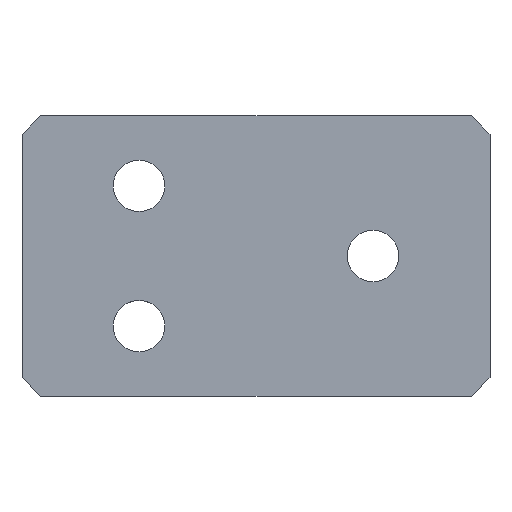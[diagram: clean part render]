
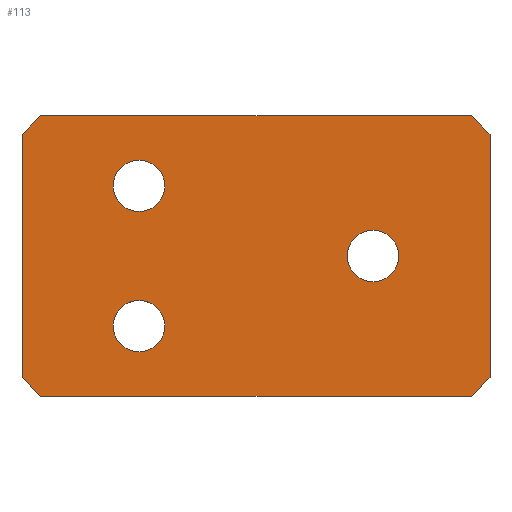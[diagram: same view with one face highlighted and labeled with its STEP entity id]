
A CAD part, top view. The second image highlights one B-rep face of the part: STEP entity #113.
In plain terms, the highlighted planar face has unit normal (0, 0, 1).
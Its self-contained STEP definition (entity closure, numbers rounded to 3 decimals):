
#3 = DIRECTION ( 'NONE',  ( 1., 0., 0. ) ) ;
#5 = VERTEX_POINT ( 'NONE', #160 ) ;
#15 = EDGE_CURVE ( 'NONE', #110, #162, #131, .T. ) ;
#20 = DIRECTION ( 'NONE',  ( 1., 0., 0. ) ) ;
#22 = EDGE_CURVE ( 'NONE', #293, #339, #98, .T. ) ;
#28 = EDGE_CURVE ( 'NONE', #5, #572, #570, .T. ) ;
#38 = CARTESIAN_POINT ( 'NONE',  ( -23., 15., 2. ) ) ;
#44 = ORIENTED_EDGE ( 'NONE', *, *, #392, .F. ) ;
#55 = AXIS2_PLACEMENT_3D ( 'NONE', #502, #227, #3 ) ;
#58 = ORIENTED_EDGE ( 'NONE', *, *, #22, .T. ) ;
#65 = CARTESIAN_POINT ( 'NONE',  ( 19., -19., 2. ) ) ;
#66 = CARTESIAN_POINT ( 'NONE',  ( 15.25, 0., 2. ) ) ;
#67 = CARTESIAN_POINT ( 'NONE',  ( 25., 15., 2. ) ) ;
#68 = CIRCLE ( 'NONE', #55, 2.75 ) ;
#69 = FACE_BOUND ( 'NONE', #564, .T. ) ;
#76 = DIRECTION ( 'NONE',  ( 0., 0., 1. ) ) ;
#80 = DIRECTION ( 'NONE',  ( 0., 0., 1. ) ) ;
#81 = VECTOR ( 'NONE', #591, 1000. ) ;
#82 = CARTESIAN_POINT ( 'NONE',  ( -19., -19., 2. ) ) ;
#85 = AXIS2_PLACEMENT_3D ( 'NONE', #97, #328, #551 ) ;
#86 = CARTESIAN_POINT ( 'NONE',  ( 19., 19., 2. ) ) ;
#91 = VERTEX_POINT ( 'NONE', #66 ) ;
#92 = DIRECTION ( 'NONE',  ( 0., -1., 0. ) ) ;
#93 = CARTESIAN_POINT ( 'NONE',  ( -15.25, 7.5, 2. ) ) ;
#95 = LINE ( 'NONE', #82, #81 ) ;
#97 = CARTESIAN_POINT ( 'NONE',  ( -12.5, 7.5, 2. ) ) ;
#98 = LINE ( 'NONE', #65, #261 ) ;
#110 = VERTEX_POINT ( 'NONE', #573 ) ;
#113 = ADVANCED_FACE ( 'NONE', ( #357, #69, #486, #368 ), #528, .T. ) ;
#122 = CIRCLE ( 'NONE', #144, 2.75 ) ;
#129 = CARTESIAN_POINT ( 'NONE',  ( 25., -13., 2. ) ) ;
#131 = LINE ( 'NONE', #67, #459 ) ;
#138 = LINE ( 'NONE', #225, #344 ) ;
#139 = ORIENTED_EDGE ( 'NONE', *, *, #543, .T. ) ;
#144 = AXIS2_PLACEMENT_3D ( 'NONE', #471, #370, #281 ) ;
#145 = LINE ( 'NONE', #330, #356 ) ;
#146 = VERTEX_POINT ( 'NONE', #491 ) ;
#155 = ORIENTED_EDGE ( 'NONE', *, *, #15, .T. ) ;
#158 = CARTESIAN_POINT ( 'NONE',  ( -12.5, 7.5, 2. ) ) ;
#160 = CARTESIAN_POINT ( 'NONE',  ( -9.75, 7.5, 2. ) ) ;
#162 = VERTEX_POINT ( 'NONE', #38 ) ;
#180 = VECTOR ( 'NONE', #317, 1000. ) ;
#195 = EDGE_CURVE ( 'NONE', #146, #474, #524, .T. ) ;
#198 = VECTOR ( 'NONE', #286, 1000. ) ;
#203 = VERTEX_POINT ( 'NONE', #539 ) ;
#208 = DIRECTION ( 'NONE',  ( 0., 0., 1. ) ) ;
#213 = VECTOR ( 'NONE', #498, 1000. ) ;
#214 = ORIENTED_EDGE ( 'NONE', *, *, #309, .T. ) ;
#225 = CARTESIAN_POINT ( 'NONE',  ( 25., -15., 2. ) ) ;
#227 = DIRECTION ( 'NONE',  ( 0., 0., 1. ) ) ;
#233 = VERTEX_POINT ( 'NONE', #269 ) ;
#234 = CARTESIAN_POINT ( 'NONE',  ( -25., -13., 2. ) ) ;
#259 = DIRECTION ( 'NONE',  ( 1., 0., 0. ) ) ;
#261 = VECTOR ( 'NONE', #391, 1000. ) ;
#263 = ORIENTED_EDGE ( 'NONE', *, *, #440, .F. ) ;
#268 = ORIENTED_EDGE ( 'NONE', *, *, #270, .T. ) ;
#269 = CARTESIAN_POINT ( 'NONE',  ( -25., 13., 2. ) ) ;
#270 = EDGE_CURVE ( 'NONE', #339, #294, #138, .T. ) ;
#271 = CARTESIAN_POINT ( 'NONE',  ( 12.5, 0., 2. ) ) ;
#274 = CARTESIAN_POINT ( 'NONE',  ( 23., -15., 2. ) ) ;
#281 = DIRECTION ( 'NONE',  ( 1., 0., 0. ) ) ;
#284 = CARTESIAN_POINT ( 'NONE',  ( -23., -15., 2. ) ) ;
#286 = DIRECTION ( 'NONE',  ( -0.707, -0.707, 0. ) ) ;
#293 = VERTEX_POINT ( 'NONE', #274 ) ;
#294 = VERTEX_POINT ( 'NONE', #589 ) ;
#301 = DIRECTION ( 'NONE',  ( 0., 0., 1. ) ) ;
#302 = CARTESIAN_POINT ( 'NONE',  ( 0., 0., 2. ) ) ;
#309 = EDGE_CURVE ( 'NONE', #468, #293, #515, .T. ) ;
#317 = DIRECTION ( 'NONE',  ( -0.707, 0.707, 0. ) ) ;
#324 = EDGE_CURVE ( 'NONE', #537, #468, #95, .T. ) ;
#328 = DIRECTION ( 'NONE',  ( 0., 0., 1. ) ) ;
#329 = LINE ( 'NONE', #365, #198 ) ;
#330 = CARTESIAN_POINT ( 'NONE',  ( -25., -15., 2. ) ) ;
#331 = ORIENTED_EDGE ( 'NONE', *, *, #363, .F. ) ;
#339 = VERTEX_POINT ( 'NONE', #129 ) ;
#344 = VECTOR ( 'NONE', #542, 1000. ) ;
#356 = VECTOR ( 'NONE', #92, 1000. ) ;
#357 = FACE_BOUND ( 'NONE', #467, .T. ) ;
#363 = EDGE_CURVE ( 'NONE', #474, #146, #68, .T. ) ;
#365 = CARTESIAN_POINT ( 'NONE',  ( -19., 19., 2. ) ) ;
#368 = FACE_OUTER_BOUND ( 'NONE', #451, .T. ) ;
#370 = DIRECTION ( 'NONE',  ( 0., 0., 1. ) ) ;
#371 = EDGE_CURVE ( 'NONE', #294, #110, #438, .T. ) ;
#389 = ORIENTED_EDGE ( 'NONE', *, *, #324, .T. ) ;
#391 = DIRECTION ( 'NONE',  ( 0.707, 0.707, 0. ) ) ;
#392 = EDGE_CURVE ( 'NONE', #91, #203, #483, .T. ) ;
#394 = DIRECTION ( 'NONE',  ( -1., 0., 0. ) ) ;
#395 = AXIS2_PLACEMENT_3D ( 'NONE', #158, #301, #20 ) ;
#400 = CARTESIAN_POINT ( 'NONE',  ( -12.5, -7.5, 2. ) ) ;
#422 = ORIENTED_EDGE ( 'NONE', *, *, #371, .T. ) ;
#435 = AXIS2_PLACEMENT_3D ( 'NONE', #302, #208, #259 ) ;
#438 = LINE ( 'NONE', #86, #180 ) ;
#440 = EDGE_CURVE ( 'NONE', #572, #5, #507, .T. ) ;
#451 = EDGE_LOOP ( 'NONE', ( #139, #389, #214, #58, #268, #422, #155, #531 ) ) ;
#455 = CARTESIAN_POINT ( 'NONE',  ( 25., -15., 2. ) ) ;
#459 = VECTOR ( 'NONE', #394, 1000. ) ;
#462 = AXIS2_PLACEMENT_3D ( 'NONE', #271, #80, #544 ) ;
#467 = EDGE_LOOP ( 'NONE', ( #517, #331 ) ) ;
#468 = VERTEX_POINT ( 'NONE', #284 ) ;
#470 = EDGE_CURVE ( 'NONE', #162, #233, #329, .T. ) ;
#471 = CARTESIAN_POINT ( 'NONE',  ( 12.5, 0., 2. ) ) ;
#474 = VERTEX_POINT ( 'NONE', #555 ) ;
#475 = ORIENTED_EDGE ( 'NONE', *, *, #501, .F. ) ;
#483 = CIRCLE ( 'NONE', #462, 2.75 ) ;
#486 = FACE_BOUND ( 'NONE', #530, .T. ) ;
#491 = CARTESIAN_POINT ( 'NONE',  ( -9.75, -7.5, 2. ) ) ;
#498 = DIRECTION ( 'NONE',  ( 1., 0., 0. ) ) ;
#499 = AXIS2_PLACEMENT_3D ( 'NONE', #400, #76, #532 ) ;
#501 = EDGE_CURVE ( 'NONE', #203, #91, #122, .T. ) ;
#502 = CARTESIAN_POINT ( 'NONE',  ( -12.5, -7.5, 2. ) ) ;
#507 = CIRCLE ( 'NONE', #85, 2.75 ) ;
#515 = LINE ( 'NONE', #455, #213 ) ;
#517 = ORIENTED_EDGE ( 'NONE', *, *, #195, .F. ) ;
#524 = CIRCLE ( 'NONE', #499, 2.75 ) ;
#528 = PLANE ( 'NONE',  #435 ) ;
#530 = EDGE_LOOP ( 'NONE', ( #546, #263 ) ) ;
#531 = ORIENTED_EDGE ( 'NONE', *, *, #470, .T. ) ;
#532 = DIRECTION ( 'NONE',  ( 1., 0., 0. ) ) ;
#537 = VERTEX_POINT ( 'NONE', #234 ) ;
#539 = CARTESIAN_POINT ( 'NONE',  ( 9.75, 0., 2. ) ) ;
#542 = DIRECTION ( 'NONE',  ( 0., 1., 0. ) ) ;
#543 = EDGE_CURVE ( 'NONE', #233, #537, #145, .T. ) ;
#544 = DIRECTION ( 'NONE',  ( 1., 0., 0. ) ) ;
#546 = ORIENTED_EDGE ( 'NONE', *, *, #28, .F. ) ;
#551 = DIRECTION ( 'NONE',  ( 1., 0., 0. ) ) ;
#555 = CARTESIAN_POINT ( 'NONE',  ( -15.25, -7.5, 2. ) ) ;
#564 = EDGE_LOOP ( 'NONE', ( #44, #475 ) ) ;
#570 = CIRCLE ( 'NONE', #395, 2.75 ) ;
#572 = VERTEX_POINT ( 'NONE', #93 ) ;
#573 = CARTESIAN_POINT ( 'NONE',  ( 23., 15., 2. ) ) ;
#589 = CARTESIAN_POINT ( 'NONE',  ( 25., 13., 2. ) ) ;
#591 = DIRECTION ( 'NONE',  ( 0.707, -0.707, 0. ) ) ;
